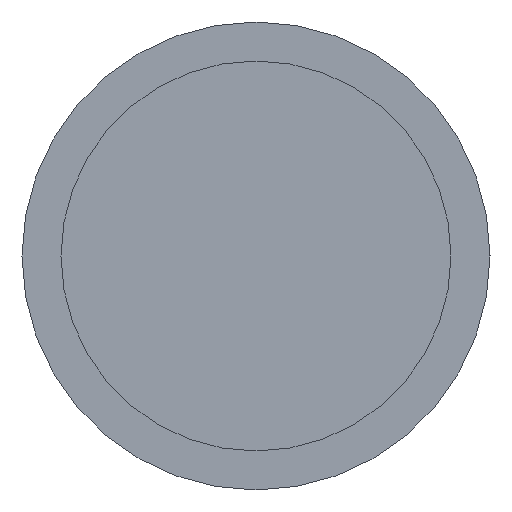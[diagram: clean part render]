
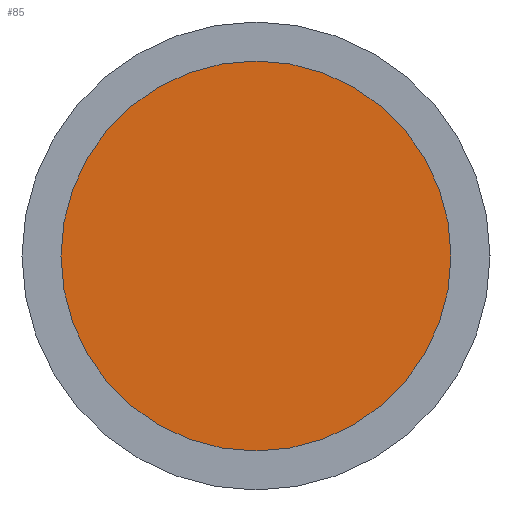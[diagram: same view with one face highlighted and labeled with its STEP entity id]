
A CAD part, left-side view. The second image highlights one B-rep face of the part: STEP entity #85.
In plain terms, the highlighted planar face has unit normal (-1, 0, 0).
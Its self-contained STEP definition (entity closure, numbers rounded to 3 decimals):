
#19=PLANE('',#118);
#24=FACE_OUTER_BOUND('',#31,.T.);
#31=EDGE_LOOP('',(#68));
#43=CIRCLE('',#116,2.5);
#49=VERTEX_POINT('',#162);
#56=EDGE_CURVE('',#49,#49,#43,.T.);
#68=ORIENTED_EDGE('',*,*,#56,.F.);
#85=ADVANCED_FACE('',(#24),#19,.F.);
#116=AXIS2_PLACEMENT_3D('',#164,#134,#135);
#118=AXIS2_PLACEMENT_3D('',#166,#138,#139);
#134=DIRECTION('center_axis',(1.,0.,0.));
#135=DIRECTION('ref_axis',(0.,1.,0.));
#138=DIRECTION('center_axis',(1.,0.,0.));
#139=DIRECTION('ref_axis',(0.,0.,-1.));
#162=CARTESIAN_POINT('',(0.,-2.5,0.));
#164=CARTESIAN_POINT('Origin',(0.,0.,0.));
#166=CARTESIAN_POINT('Origin',(0.,0.,0.));
